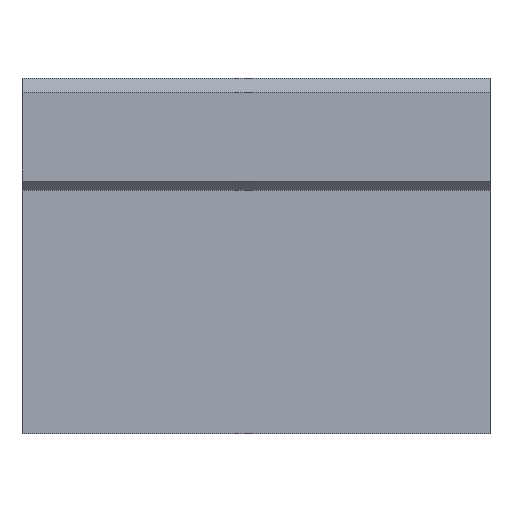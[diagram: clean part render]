
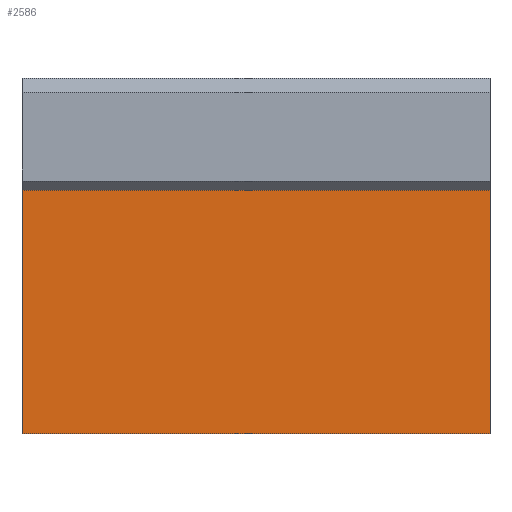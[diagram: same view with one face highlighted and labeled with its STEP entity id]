
A CAD part, front view. The second image highlights one B-rep face of the part: STEP entity #2586.
In plain terms, the highlighted planar face has unit normal (0, -1, 0).
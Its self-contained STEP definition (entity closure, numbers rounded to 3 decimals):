
#2523=CARTESIAN_POINT('',(0.0,-26.0,11.0));
#2524=VERTEX_POINT('',#2523);
#2531=CARTESIAN_POINT('',(50.0,-26.0,11.0));
#2532=VERTEX_POINT('',#2531);
#2533=CARTESIAN_POINT('',(0.0,-26.0,11.0));
#2534=DIRECTION('',(1.0,0.0,0.0));
#2535=VECTOR('',#2534,50.0);
#2536=LINE('',#2533,#2535);
#2537=EDGE_CURVE('',#2524,#2532,#2536,.T.);
#2556=CARTESIAN_POINT('',(0.0,-26.0,-15.));
#2557=DIRECTION('',(0.0,-1.0,0.0));
#2558=DIRECTION('',(0.0,0.0,-1.0));
#2559=AXIS2_PLACEMENT_3D('',#2556,#2557,#2558);
#2560=PLANE('',#2559);
#2561=ORIENTED_EDGE('',*,*,#2537,.F.);
#2562=CARTESIAN_POINT('',(0.0,-26.0,-15.));
#2563=VERTEX_POINT('',#2562);
#2564=CARTESIAN_POINT('',(0.0,-26.0,11.0));
#2565=DIRECTION('',(0.0,0.0,-1.0));
#2566=VECTOR('',#2565,26.);
#2567=LINE('',#2564,#2566);
#2568=EDGE_CURVE('',#2524,#2563,#2567,.T.);
#2569=ORIENTED_EDGE('',*,*,#2568,.T.);
#2570=CARTESIAN_POINT('',(50.0,-26.0,-15.));
#2571=VERTEX_POINT('',#2570);
#2572=CARTESIAN_POINT('',(0.0,-26.0,-15.));
#2573=DIRECTION('',(1.0,0.0,0.0));
#2574=VECTOR('',#2573,50.0);
#2575=LINE('',#2572,#2574);
#2576=EDGE_CURVE('',#2563,#2571,#2575,.T.);
#2577=ORIENTED_EDGE('',*,*,#2576,.T.);
#2578=CARTESIAN_POINT('',(50.0,-26.0,-15.));
#2579=DIRECTION('',(0.0,0.0,1.0));
#2580=VECTOR('',#2579,26.);
#2581=LINE('',#2578,#2580);
#2582=EDGE_CURVE('',#2571,#2532,#2581,.T.);
#2583=ORIENTED_EDGE('',*,*,#2582,.T.);
#2584=EDGE_LOOP('',(#2561,#2569,#2577,#2583));
#2585=FACE_OUTER_BOUND('',#2584,.T.);
#2586=ADVANCED_FACE('',(#2585),#2560,.T.);
